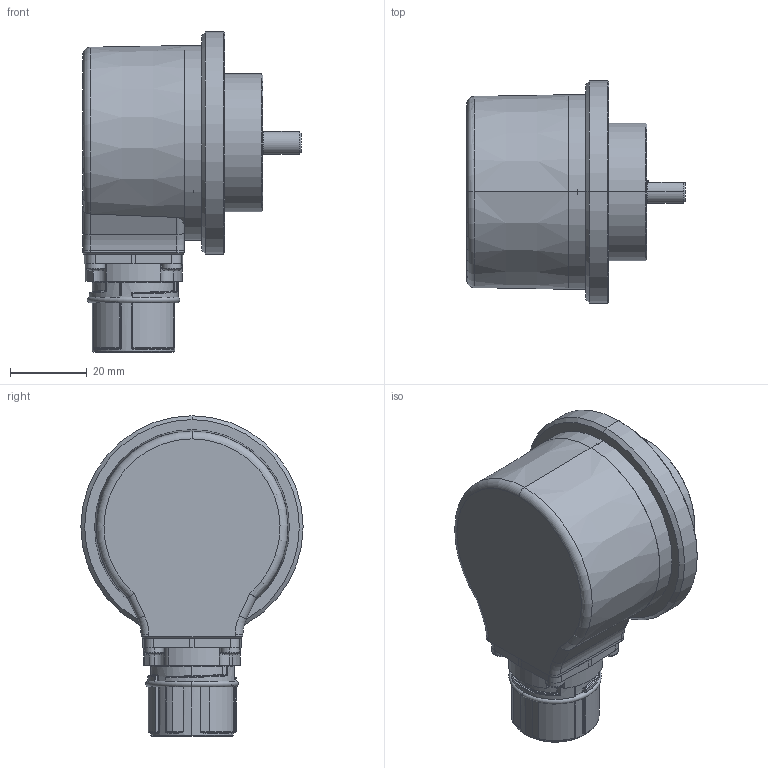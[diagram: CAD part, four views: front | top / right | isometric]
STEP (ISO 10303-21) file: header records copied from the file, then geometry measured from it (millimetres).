
FILE_DESCRIPTION (( 'STEP AP203' ), '1' );
FILE_NAME ('8.5000.71X8.XXXX.STEP', '2017-04-05T06:59:31', ( '' ), ( '' ), 'SwSTEP 2.0', 'SolidWorks 2017', '' );
FILE_SCHEMA (( 'CONFIG_CONTROL_DESIGN' ));
Length unit declared in the file: millimetre
Products named in the file (1): 8.5000.71X8.XXXX
Bounding box: 57 x 58 x 83.6 mm (x, y, z)
Volume: 55602 mm3; surface area: 38716.5 mm2
Topology: 24 solids, 24 shells, 1259 faces, 2910 edges, 1776 vertices
Faces by surface type: cylinder 469, plane 365, cone 152, bspline 121, torus 92, sphere 60
Entity records: 41394 total; most frequent: CARTESIAN_POINT 12928, DIRECTION 6151, ORIENTED_EDGE 5704, EDGE_CURVE 2852, AXIS2_PLACEMENT_3D 2473, VERTEX_POINT 1768, EDGE_LOOP 1434, CIRCLE 1334
